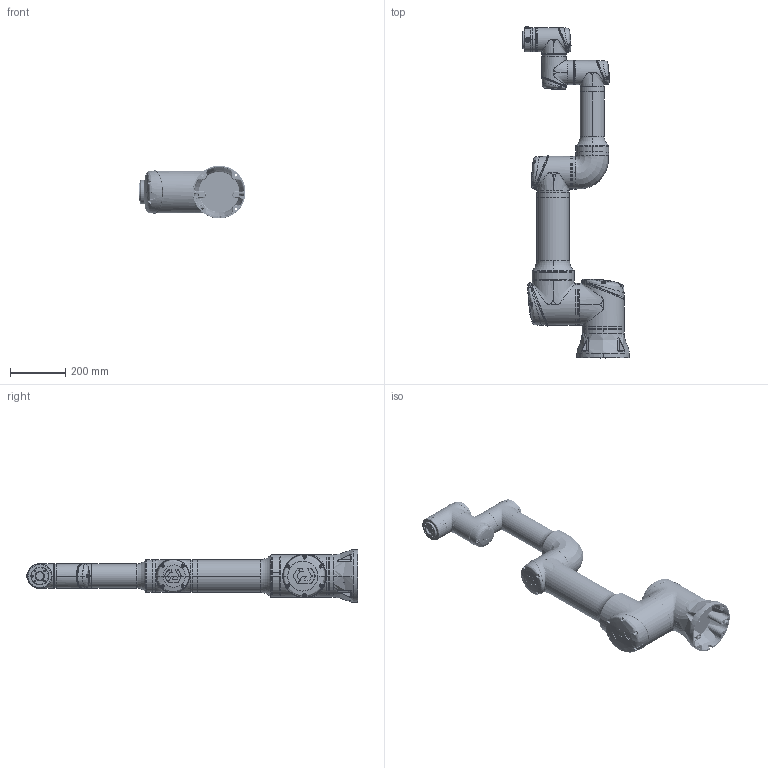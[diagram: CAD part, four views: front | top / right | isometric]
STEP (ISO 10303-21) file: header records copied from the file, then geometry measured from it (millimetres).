
FILE_DESCRIPTION (( 'STEP AP203' ), '1' );
FILE_NAME ('CS_掛极CS618_V1.2.STEP', '2025-03-27T05:26:52', ( '' ), ( '' ), 'SwSTEP 2.0', 'SolidWorks 2017', '' );
FILE_SCHEMA (( 'CONFIG_CONTROL_DESIGN' ));
Length unit declared in the file: millimetre
Products named in the file (8): CS618-Base; CS618-Link4; CS618-Link1; CS618-Link5; CS618-Flange; CS_掛极CS618_V1.2; CS618-Link3; CS618-Link2
Assembly tree (7 placements, depth 2):
  CS_掛极CS618_V1.2
    CS618-Base
    CS618-Link1
    CS618-Link2
    CS618-Link3
    CS618-Link4
    CS618-Link5
    CS618-Flange
Bounding box: 385.68 x 1196.7 x 189.7 mm (x, y, z)
Volume: 19259839.3 mm3; surface area: 1317839.1 mm2
Topology: 80 solids, 121 shells, 5734 faces, 13659 edges, 8195 vertices
Faces by surface type: bspline 2075, plane 1500, cylinder 1187, cone 421, torus 338, sphere 213
Entity records: 462269 total; most frequent: CARTESIAN_POINT 346993, ORIENTED_EDGE 26762, DIRECTION 19905, EDGE_CURVE 13383, AXIS2_PLACEMENT_3D 8403, VERTEX_POINT 8149, EDGE_LOOP 6109, ADVANCED_FACE 5734
